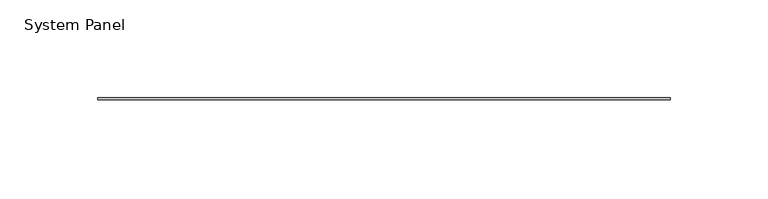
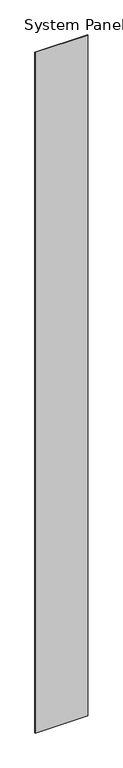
"""IFC4 building model written with IfcOpenShell, lengths in millimetres: plate geometry, System Panel : Stratco_Hiland_Interlock_Panel."""

from ifc_helpers import new_model, si_unit, origin, origin_with_axes, place, context, project, spatial, polyline, outline, extrude, source, transform, mapped, element, save


def system_panel_98b9b2bf(model_context):
    return source(origin(), model_context, "Body", "SweptSolid", [
        extrude(outline(polyline([(146.5000002, 24.0), (-146.5000002, 24.0), (-146.5000002, 25.0), (146.5000002, 25.0), (146.5000002, 24.0)])), origin_with_axes(), (0.0, 0.0, 1.0), 4000.0),
    ])


if __name__ == "__main__":
    model = new_model("IFC4")
    model_context = context("Model", 3, world=origin())
    ifc_project = project(units=[si_unit("LENGTHUNIT", "METRE", prefix="MILLI")], contexts=[model_context])
    site = spatial("IfcSite", under=ifc_project)
    building = spatial("IfcBuilding", under=site)
    placement = place(None, origin())
    system_panel_shape = system_panel_98b9b2bf(model_context)
    element("IfcPlate", 1, ObjectType="System Panel : Stratco_Hiland_Interlock_Panel", at=placement, inside=building, context=model_context, shape_type="MappedRepresentation", body=[
        mapped(system_panel_shape, transform((0.0, 0.0, 0.0), x_axis=(1.0, 0.0, 0.0), y_axis=(0.0, 1.0, 0.0), z_axis=(0.0, 0.0, 1.0))),
    ])
    save(model, "model.ifc")
